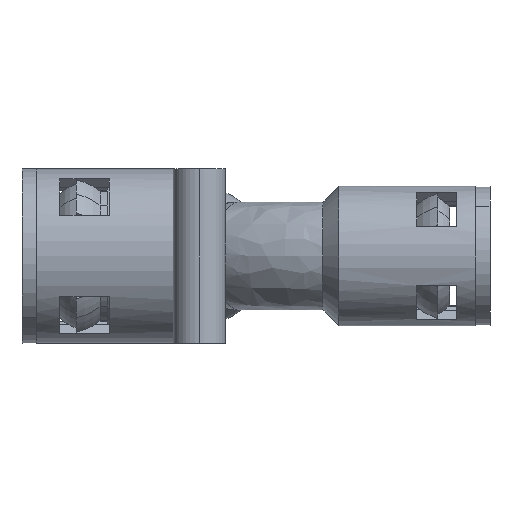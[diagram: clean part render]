
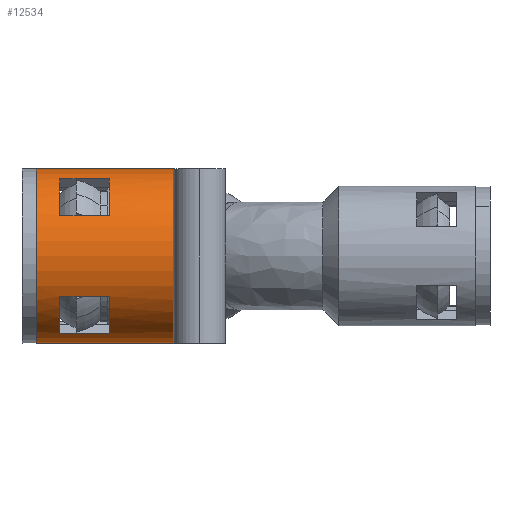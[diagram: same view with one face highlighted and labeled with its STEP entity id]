
A CAD part, left-side view. The second image highlights one B-rep face of the part: STEP entity #12534.
In plain terms, the highlighted cylindrical face has radius 18.5 mm (diameter 37 mm), a partial arc.
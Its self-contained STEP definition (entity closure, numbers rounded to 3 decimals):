
#237 = CIRCLE ( 'NONE', #1253, 18.5 ) ;
#283 = VERTEX_POINT ( 'NONE', #8223 ) ;
#494 = LINE ( 'NONE', #9898, #12447 ) ;
#783 = ORIENTED_EDGE ( 'NONE', *, *, #7560, .F. ) ;
#1253 = AXIS2_PLACEMENT_3D ( 'NONE', #6539, #6482, #6424 ) ;
#1302 = EDGE_CURVE ( 'NONE', #11543, #6371, #8262, .T. ) ;
#1495 = ORIENTED_EDGE ( 'NONE', *, *, #2596, .F. ) ;
#1653 = DIRECTION ( 'NONE',  ( 0., -1., 0. ) ) ;
#1667 = DIRECTION ( 'NONE',  ( 0., -1., 0. ) ) ;
#2193 = EDGE_CURVE ( 'NONE', #6371, #4465, #13079, .T. ) ;
#2234 = DIRECTION ( 'NONE',  ( 0., 1., 0. ) ) ;
#2539 = VECTOR ( 'NONE', #10200, 1000. ) ;
#2585 = VERTEX_POINT ( 'NONE', #7009 ) ;
#2587 = CARTESIAN_POINT ( 'NONE',  ( -16.379, 0., -8.601 ) ) ;
#2596 = EDGE_CURVE ( 'NONE', #283, #9471, #237, .T. ) ;
#2639 = AXIS2_PLACEMENT_3D ( 'NONE', #6066, #13998, #8290 ) ;
#2694 = EDGE_CURVE ( 'NONE', #9471, #13978, #10387, .T. ) ;
#3218 = EDGE_CURVE ( 'NONE', #12817, #14813, #4955, .T. ) ;
#3363 = CIRCLE ( 'NONE', #13686, 18.5 ) ;
#3526 = CARTESIAN_POINT ( 'NONE',  ( 0., 64., 0. ) ) ;
#3608 = EDGE_CURVE ( 'NONE', #4465, #7176, #11771, .T. ) ;
#3815 = CARTESIAN_POINT ( 'NONE',  ( 0., 64., -18.5 ) ) ;
#3827 = FACE_BOUND ( 'NONE', #9261, .T. ) ;
#4067 = CARTESIAN_POINT ( 'NONE',  ( 0., 0., 0. ) ) ;
#4232 = CARTESIAN_POINT ( 'NONE',  ( 0., 0., -18.5 ) ) ;
#4465 = VERTEX_POINT ( 'NONE', #7624 ) ;
#4699 = DIRECTION ( 'NONE',  ( 0., 0., -1. ) ) ;
#4700 = CARTESIAN_POINT ( 'NONE',  ( -16.379, 88., 8.601 ) ) ;
#4807 = CIRCLE ( 'NONE', #9661, 18.5 ) ;
#4944 = CARTESIAN_POINT ( 'NONE',  ( -8.601, 88., 16.379 ) ) ;
#4955 = LINE ( 'NONE', #14531, #7302 ) ;
#5033 = AXIS2_PLACEMENT_3D ( 'NONE', #7250, #14294, #10683 ) ;
#5197 = DIRECTION ( 'NONE',  ( 0., -1., 0. ) ) ;
#5292 = CARTESIAN_POINT ( 'NONE',  ( -8.601, 88., -16.379 ) ) ;
#5300 = DIRECTION ( 'NONE',  ( 0., 1., 0. ) ) ;
#5349 = LINE ( 'NONE', #4232, #14137 ) ;
#5716 = ORIENTED_EDGE ( 'NONE', *, *, #10893, .F. ) ;
#6043 = CARTESIAN_POINT ( 'NONE',  ( -16.379, 77.5, -8.601 ) ) ;
#6066 = CARTESIAN_POINT ( 'NONE',  ( 0., 77.5, 0. ) ) ;
#6371 = VERTEX_POINT ( 'NONE', #4700 ) ;
#6424 = DIRECTION ( 'NONE',  ( 0., 0., -1. ) ) ;
#6458 = CARTESIAN_POINT ( 'NONE',  ( -16.379, 88., -8.601 ) ) ;
#6482 = DIRECTION ( 'NONE',  ( 0., 1., 0. ) ) ;
#6539 = CARTESIAN_POINT ( 'NONE',  ( 0., 77.5, 0. ) ) ;
#6849 = ORIENTED_EDGE ( 'NONE', *, *, #7687, .T. ) ;
#6994 = VECTOR ( 'NONE', #13174, 1000. ) ;
#7009 = CARTESIAN_POINT ( 'NONE',  ( 0., 93., -18.5 ) ) ;
#7176 = VERTEX_POINT ( 'NONE', #12146 ) ;
#7250 = CARTESIAN_POINT ( 'NONE',  ( 0., 88., 0. ) ) ;
#7302 = VECTOR ( 'NONE', #11169, 1000. ) ;
#7560 = EDGE_CURVE ( 'NONE', #7176, #11543, #494, .T. ) ;
#7624 = CARTESIAN_POINT ( 'NONE',  ( -16.379, 77.5, 8.601 ) ) ;
#7687 = EDGE_CURVE ( 'NONE', #12817, #2585, #11709, .T. ) ;
#8223 = CARTESIAN_POINT ( 'NONE',  ( -8.601, 77.5, -16.379 ) ) ;
#8262 = CIRCLE ( 'NONE', #5033, 18.5 ) ;
#8290 = DIRECTION ( 'NONE',  ( 0., 0., -1. ) ) ;
#8585 = CARTESIAN_POINT ( 'NONE',  ( 0., 93., 0. ) ) ;
#8805 = EDGE_LOOP ( 'NONE', ( #9978, #14083, #783, #12522 ) ) ;
#9028 = CARTESIAN_POINT ( 'NONE',  ( -8.601, 0., -16.379 ) ) ;
#9251 = CYLINDRICAL_SURFACE ( 'NONE', #10926, 18.5 ) ;
#9261 = EDGE_LOOP ( 'NONE', ( #11955, #1495, #11992, #5716 ) ) ;
#9418 = CARTESIAN_POINT ( 'NONE',  ( 0., 64., 18.5 ) ) ;
#9471 = VERTEX_POINT ( 'NONE', #6043 ) ;
#9608 = FACE_OUTER_BOUND ( 'NONE', #12724, .T. ) ;
#9661 = AXIS2_PLACEMENT_3D ( 'NONE', #3526, #11583, #4699 ) ;
#9768 = DIRECTION ( 'NONE',  ( 0., 0., -1. ) ) ;
#9898 = CARTESIAN_POINT ( 'NONE',  ( -8.601, 0., 16.379 ) ) ;
#9921 = ORIENTED_EDGE ( 'NONE', *, *, #3218, .F. ) ;
#9978 = ORIENTED_EDGE ( 'NONE', *, *, #2193, .F. ) ;
#10200 = DIRECTION ( 'NONE',  ( 0., -1., 0. ) ) ;
#10387 = LINE ( 'NONE', #2587, #13776 ) ;
#10683 = DIRECTION ( 'NONE',  ( 0., 0., 1. ) ) ;
#10893 = EDGE_CURVE ( 'NONE', #13978, #12584, #3363, .T. ) ;
#10926 = AXIS2_PLACEMENT_3D ( 'NONE', #4067, #1667, #12115 ) ;
#11006 = EDGE_CURVE ( 'NONE', #2585, #14208, #5349, .T. ) ;
#11169 = DIRECTION ( 'NONE',  ( 0., -1., 0. ) ) ;
#11543 = VERTEX_POINT ( 'NONE', #4944 ) ;
#11583 = DIRECTION ( 'NONE',  ( 0., -1., 0. ) ) ;
#11709 = CIRCLE ( 'NONE', #13918, 18.5 ) ;
#11728 = LINE ( 'NONE', #9028, #2539 ) ;
#11771 = CIRCLE ( 'NONE', #2639, 18.5 ) ;
#11955 = ORIENTED_EDGE ( 'NONE', *, *, #2694, .F. ) ;
#11992 = ORIENTED_EDGE ( 'NONE', *, *, #14039, .F. ) ;
#12079 = CARTESIAN_POINT ( 'NONE',  ( 0., 88., 0. ) ) ;
#12115 = DIRECTION ( 'NONE',  ( 0., 0., -1. ) ) ;
#12146 = CARTESIAN_POINT ( 'NONE',  ( -8.601, 77.5, 16.379 ) ) ;
#12190 = EDGE_CURVE ( 'NONE', #14813, #14208, #4807, .T. ) ;
#12281 = DIRECTION ( 'NONE',  ( 0., -1., 0. ) ) ;
#12447 = VECTOR ( 'NONE', #5300, 1000. ) ;
#12522 = ORIENTED_EDGE ( 'NONE', *, *, #3608, .F. ) ;
#12534 = ADVANCED_FACE ( 'NONE', ( #9608, #12675, #3827 ), #9251, .T. ) ;
#12584 = VERTEX_POINT ( 'NONE', #5292 ) ;
#12640 = ORIENTED_EDGE ( 'NONE', *, *, #12190, .F. ) ;
#12675 = FACE_BOUND ( 'NONE', #8805, .T. ) ;
#12724 = EDGE_LOOP ( 'NONE', ( #9921, #6849, #14913, #12640 ) ) ;
#12726 = CARTESIAN_POINT ( 'NONE',  ( 0., 93., 18.5 ) ) ;
#12817 = VERTEX_POINT ( 'NONE', #12726 ) ;
#13079 = LINE ( 'NONE', #13446, #6994 ) ;
#13174 = DIRECTION ( 'NONE',  ( 0., -1., 0. ) ) ;
#13225 = DIRECTION ( 'NONE',  ( 0., 0., 1. ) ) ;
#13446 = CARTESIAN_POINT ( 'NONE',  ( -16.379, 0., 8.601 ) ) ;
#13686 = AXIS2_PLACEMENT_3D ( 'NONE', #12079, #5197, #13225 ) ;
#13776 = VECTOR ( 'NONE', #2234, 1000. ) ;
#13918 = AXIS2_PLACEMENT_3D ( 'NONE', #8585, #1653, #9768 ) ;
#13978 = VERTEX_POINT ( 'NONE', #6458 ) ;
#13998 = DIRECTION ( 'NONE',  ( 0., 1., 0. ) ) ;
#14039 = EDGE_CURVE ( 'NONE', #12584, #283, #11728, .T. ) ;
#14083 = ORIENTED_EDGE ( 'NONE', *, *, #1302, .F. ) ;
#14137 = VECTOR ( 'NONE', #12281, 1000. ) ;
#14208 = VERTEX_POINT ( 'NONE', #3815 ) ;
#14294 = DIRECTION ( 'NONE',  ( 0., -1., 0. ) ) ;
#14531 = CARTESIAN_POINT ( 'NONE',  ( 0., 0., 18.5 ) ) ;
#14813 = VERTEX_POINT ( 'NONE', #9418 ) ;
#14913 = ORIENTED_EDGE ( 'NONE', *, *, #11006, .T. ) ;
